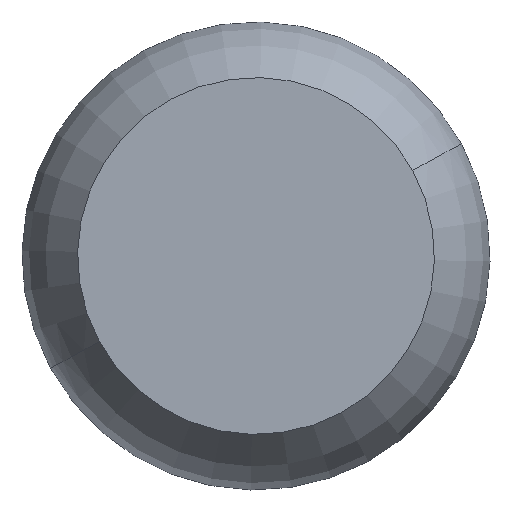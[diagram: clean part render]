
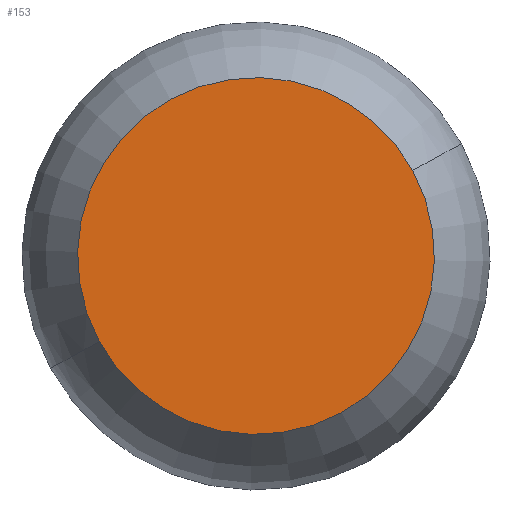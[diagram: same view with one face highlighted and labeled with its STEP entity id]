
A CAD part, front view. The second image highlights one B-rep face of the part: STEP entity #153.
In plain terms, the highlighted planar face has unit normal (0, -1, 0).
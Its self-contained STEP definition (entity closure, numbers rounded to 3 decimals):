
#66=CARTESIAN_POINT('Axis2P3D Location',(0.,0.,0.)) ;
#70=CARTESIAN_POINT('Vertex',(91.269,0.,49.86)) ;
#72=CARTESIAN_POINT('Vertex',(-91.269,0.,-49.86)) ;
#127=CARTESIAN_POINT('Axis2P3D Location',(0.,0.,0.)) ;
#144=CARTESIAN_POINT('Axis2P3D Location',(0.,0.,0.)) ;
#67=DIRECTION('Axis2P3D Direction',(0.,-1.,0.)) ;
#128=DIRECTION('Axis2P3D Direction',(0.,-1.,0.)) ;
#145=DIRECTION('Axis2P3D Direction',(0.,-1.,0.)) ;
#146=DIRECTION('Axis2P3D XDirection',(1.,0.,0.)) ;
#68=AXIS2_PLACEMENT_3D('Circle Axis2P3D',#66,#67,$) ;
#129=AXIS2_PLACEMENT_3D('Circle Axis2P3D',#127,#128,$) ;
#147=AXIS2_PLACEMENT_3D('Plane Axis2P3D',#144,#145,#146) ;
#150=ORIENTED_EDGE('',*,*,#74,.T.) ;
#151=ORIENTED_EDGE('',*,*,#131,.T.) ;
#153=ADVANCED_FACE('PartBody',(#152),#148,.T.) ;
#69=CIRCLE('generated circle',#68,104.) ;
#130=CIRCLE('generated circle',#129,104.) ;
#74=EDGE_CURVE('',#71,#73,#69,.T.) ;
#131=EDGE_CURVE('',#73,#71,#130,.T.) ;
#149=EDGE_LOOP('',(#150,#151)) ;
#152=FACE_OUTER_BOUND('',#149,.T.) ;
#148=PLANE('',#147) ;
#71=VERTEX_POINT('',#70) ;
#73=VERTEX_POINT('',#72) ;
